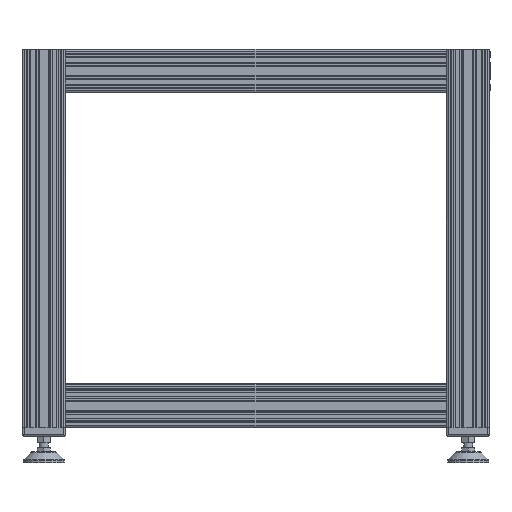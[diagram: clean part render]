
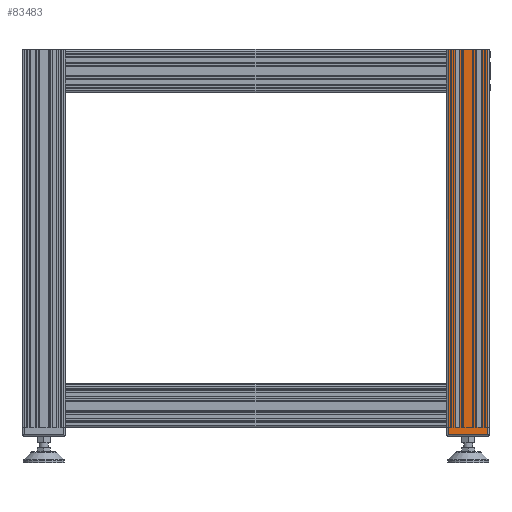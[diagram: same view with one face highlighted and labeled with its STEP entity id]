
A CAD part, left-side view. The second image highlights one B-rep face of the part: STEP entity #83483.
In plain terms, the highlighted planar face has unit normal (-1, 0, 0).
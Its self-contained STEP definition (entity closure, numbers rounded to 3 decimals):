
#7193=FACE_OUTER_BOUND('',#11367,.T.);
#11367=EDGE_LOOP('',(#73775,#73776,#73777,#73778,#73779,#73780,#73781,#73782,
#73783,#73784,#73785,#73786));
#15331=LINE('',#124296,#25076);
#15345=LINE('',#124324,#25090);
#15359=LINE('',#124352,#25104);
#20633=LINE('',#139096,#30378);
#20635=LINE('',#139118,#30380);
#20660=LINE('',#139167,#30405);
#20661=LINE('',#139170,#30406);
#20662=LINE('',#139172,#30407);
#20663=LINE('',#139173,#30408);
#20664=LINE('',#139175,#30409);
#20665=LINE('',#139176,#30410);
#20666=LINE('',#139177,#30411);
#25076=VECTOR('',#97842,1000.);
#25090=VECTOR('',#97856,1000.);
#25104=VECTOR('',#97870,1000.);
#30378=VECTOR('',#109080,1000.);
#30380=VECTOR('',#109084,1000.);
#30405=VECTOR('',#109133,1000.);
#30406=VECTOR('',#109136,1000.);
#30407=VECTOR('',#109137,1.);
#30408=VECTOR('',#109138,1000.);
#30409=VECTOR('',#109139,1000.);
#30410=VECTOR('',#109140,1.);
#30411=VECTOR('',#109141,1.);
#34854=VERTEX_POINT('',#124293);
#34855=VERTEX_POINT('',#124295);
#34868=VERTEX_POINT('',#124321);
#34869=VERTEX_POINT('',#124323);
#34882=VERTEX_POINT('',#124349);
#34883=VERTEX_POINT('',#124351);
#38631=VERTEX_POINT('',#139095);
#38634=VERTEX_POINT('',#139116);
#38646=VERTEX_POINT('',#139165);
#38647=VERTEX_POINT('',#139169);
#38648=VERTEX_POINT('',#139171);
#38649=VERTEX_POINT('',#139174);
#44178=EDGE_CURVE('',#34854,#34855,#15331,.T.);
#44192=EDGE_CURVE('',#34868,#34869,#15345,.T.);
#44206=EDGE_CURVE('',#34882,#34883,#15359,.T.);
#50604=EDGE_CURVE('',#34883,#38631,#20633,.T.);
#50608=EDGE_CURVE('',#34882,#38634,#20635,.T.);
#50633=EDGE_CURVE('',#34869,#38646,#20660,.T.);
#50634=EDGE_CURVE('',#34868,#38647,#20661,.T.);
#50635=EDGE_CURVE('',#38647,#38648,#20662,.T.);
#50636=EDGE_CURVE('',#34855,#38648,#20663,.T.);
#50637=EDGE_CURVE('',#34854,#38649,#20664,.T.);
#50638=EDGE_CURVE('',#38631,#38649,#20665,.T.);
#50639=EDGE_CURVE('',#38634,#38646,#20666,.T.);
#73775=ORIENTED_EDGE('',*,*,#50633,.F.);
#73776=ORIENTED_EDGE('',*,*,#44192,.F.);
#73777=ORIENTED_EDGE('',*,*,#50634,.T.);
#73778=ORIENTED_EDGE('',*,*,#50635,.T.);
#73779=ORIENTED_EDGE('',*,*,#50636,.F.);
#73780=ORIENTED_EDGE('',*,*,#44178,.F.);
#73781=ORIENTED_EDGE('',*,*,#50637,.T.);
#73782=ORIENTED_EDGE('',*,*,#50638,.F.);
#73783=ORIENTED_EDGE('',*,*,#50604,.F.);
#73784=ORIENTED_EDGE('',*,*,#44206,.F.);
#73785=ORIENTED_EDGE('',*,*,#50608,.T.);
#73786=ORIENTED_EDGE('',*,*,#50639,.T.);
#79661=PLANE('',#89278);
#83483=ADVANCED_FACE('',(#7193),#79661,.F.);
#89278=AXIS2_PLACEMENT_3D('',#139168,#109134,#109135);
#97842=DIRECTION('',(0.,-1.,0.));
#97856=DIRECTION('',(0.,-1.,0.));
#97870=DIRECTION('',(0.,-1.,0.));
#109080=DIRECTION('',(0.,0.,-1.));
#109084=DIRECTION('',(0.,0.,-1.));
#109133=DIRECTION('',(0.,0.,-1.));
#109134=DIRECTION('center_axis',(1.,0.,0.));
#109135=DIRECTION('ref_axis',(0.,0.,
1.));
#109136=DIRECTION('',(0.,0.,-1.));
#109137=DIRECTION('',(0.,1.,0.));
#109138=DIRECTION('',(0.,0.,-1.));
#109139=DIRECTION('',(0.,0.,-1.));
#109140=DIRECTION('',(0.,1.,0.));
#109141=DIRECTION('',(0.,1.,0.));
#124293=CARTESIAN_POINT('',(-355.,-389.,-40.));
#124295=CARTESIAN_POINT('',(-355.,-401.,-40.));
#124296=CARTESIAN_POINT('',(-355.,-389.,-40.));
#124321=CARTESIAN_POINT('',(-355.,-409.,-40.));
#124323=CARTESIAN_POINT('',(-355.,-441.,-40.));
#124324=CARTESIAN_POINT('',(-355.,-409.,-40.));
#124349=CARTESIAN_POINT('',(-355.,-449.,-40.));
#124351=CARTESIAN_POINT('',(-355.,-461.,-40.));
#124352=CARTESIAN_POINT('',(-355.,-449.,-40.));
#139095=CARTESIAN_POINT('',(-355.,-461.,-748.));
#139096=CARTESIAN_POINT('',(-355.,-461.,-40.));
#139116=CARTESIAN_POINT('',(-355.,-449.,-735.));
#139118=CARTESIAN_POINT('',(-355.,-449.,-40.));
#139165=CARTESIAN_POINT('',(-355.,-441.,-735.));
#139167=CARTESIAN_POINT('',(-355.,-441.,-40.));
#139168=CARTESIAN_POINT('Origin',(-355.,-409.,-40.));
#139169=CARTESIAN_POINT('',(-355.,-409.,-735.));
#139170=CARTESIAN_POINT('',(-355.,-409.,-40.));
#139171=CARTESIAN_POINT('',(-355.,-401.,-735.));
#139172=CARTESIAN_POINT('',(-355.,-461.,-735.));
#139173=CARTESIAN_POINT('',(-355.,-401.,-40.));
#139174=CARTESIAN_POINT('',(-355.,-389.,-748.));
#139175=CARTESIAN_POINT('',(-355.,-389.,-40.));
#139176=CARTESIAN_POINT('',(-355.,-425.,-748.));
#139177=CARTESIAN_POINT('',(-355.,-461.,-735.));
